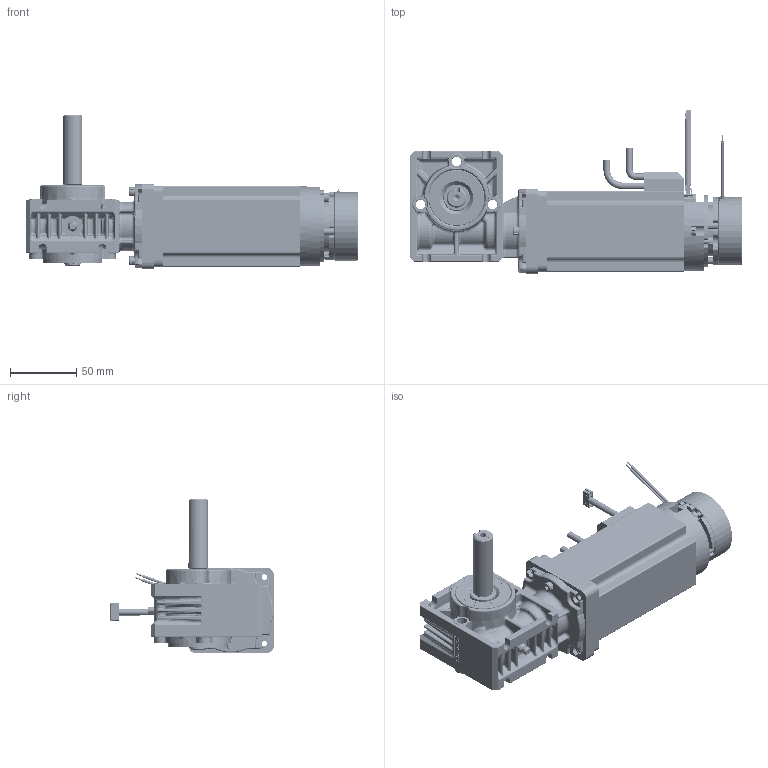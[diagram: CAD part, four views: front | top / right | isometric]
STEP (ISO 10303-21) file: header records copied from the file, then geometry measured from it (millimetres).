
FILE_DESCRIPTION (( 'STEP AP214' ), '1' );
FILE_NAME ('PBL60-70-GB28 - Encoder - Brake - Shaft.STEP', '2024-11-26T15:52:17', ( '' ), ( '' ), 'SwSTEP 2.0', 'SolidWorks 2023', '' );
FILE_SCHEMA (( 'AUTOMOTIVE_DESIGN' ));
Length unit declared in the file: millimetre
Products named in the file (1): PBL60-70-GB28 - Encoder - Brake - Shaft
Bounding box: 249.74 x 122.95 x 115.67 mm (x, y, z)
Volume: 698068.9 mm3; surface area: 194470.3 mm2
Topology: 49 solids, 49 shells, 7348 faces, 19487 edges, 12408 vertices
Faces by surface type: cylinder 2831, plane 2795, bspline 1028, cone 356, torus 206, sphere 132
Entity records: 370879 total; most frequent: CARTESIAN_POINT 114989, ORIENTED_EDGE 38680, DIRECTION 33550, EDGE_CURVE 19340, VERTEX_POINT 12399, AXIS2_PLACEMENT_3D 11922, LINE 9706, VECTOR 9706
